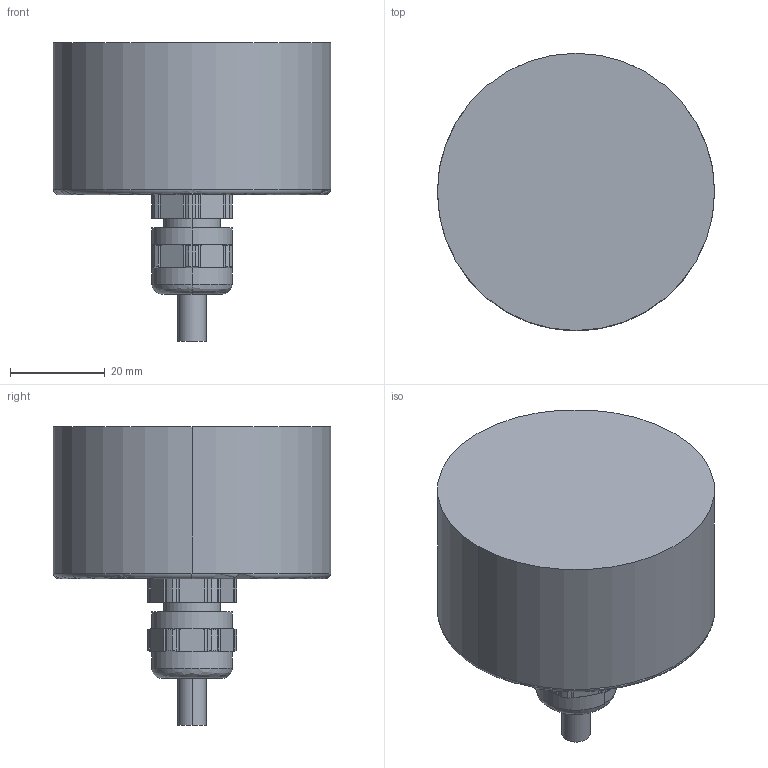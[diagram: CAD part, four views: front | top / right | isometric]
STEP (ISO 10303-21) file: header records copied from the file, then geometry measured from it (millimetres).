
FILE_DESCRIPTION (( 'STEP AP203' ), '1' );
FILE_NAME ('Drawing-OC-5-CA-322-SZM-12BNNN-Y-CAW-N.STEP', '2013-12-03T12:54:13', ( 'Admin' ), ( 'Microsoft' ), 'SwSTEP 2.0', 'SolidWorks 2006104', '' );
FILE_SCHEMA (( 'CONFIG_CONTROL_DESIGN' ));
Length unit declared in the file: millimetre
Products named in the file (1): Drawing-OC-5-CA-322-SZM-12BNNN-Y-CAW-N
Bounding box: 58.6 x 58.6 x 63.2 mm (x, y, z)
Volume: 13776.4 mm3; surface area: 25222.8 mm2
Topology: 9 solids, 9 shells, 373 faces, 943 edges, 584 vertices
Faces by surface type: cone 130, cylinder 118, plane 77, torus 46, bspline 2
Entity records: 12225 total; most frequent: CARTESIAN_POINT 3119, DIRECTION 2008, ORIENTED_EDGE 1874, EDGE_CURVE 937, AXIS2_PLACEMENT_3D 859, VERTEX_POINT 584, CIRCLE 487, EDGE_LOOP 389
